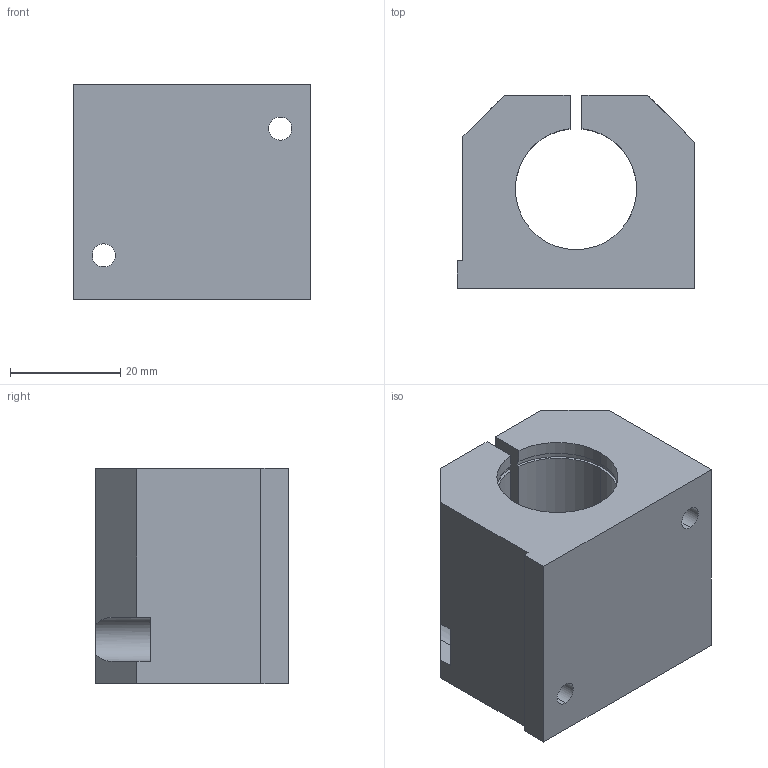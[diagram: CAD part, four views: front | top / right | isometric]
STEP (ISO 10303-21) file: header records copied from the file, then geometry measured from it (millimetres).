
FILE_DESCRIPTION (( 'STEP AP214' ), '1' );
FILE_NAME ('KGE36-12.step', '2020-03-04T13:19:17', ( '' ), ( '' ), 'SwSTEP 2.0', 'SolidWorks 2019', '' );
FILE_SCHEMA (( 'AUTOMOTIVE_DESIGN' ));
Length unit declared in the file: millimetre
Products named in the file (1): KGE36-12
Bounding box: 43 x 35 x 39 mm (x, y, z)
Volume: 37265.3 mm3; surface area: 12286.8 mm2
Topology: 1 solids, 1 shells, 61 faces, 168 edges, 109 vertices
Faces by surface type: cylinder 31, plane 26, cone 4
Entity records: 2136 total; most frequent: CARTESIAN_POINT 419, DIRECTION 340, ORIENTED_EDGE 332, EDGE_CURVE 166, AXIS2_PLACEMENT_3D 120, VERTEX_POINT 109, VECTOR 100, LINE 100
